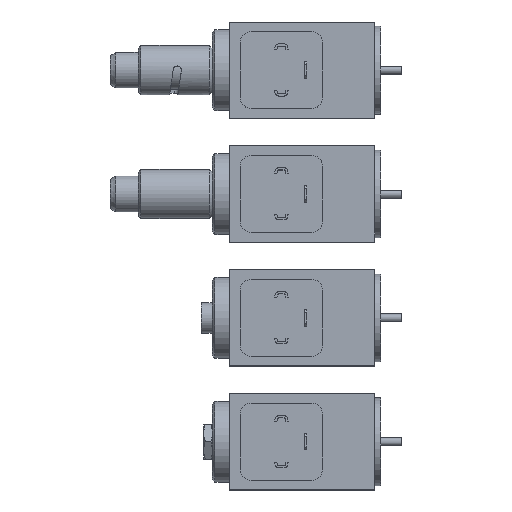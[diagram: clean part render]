
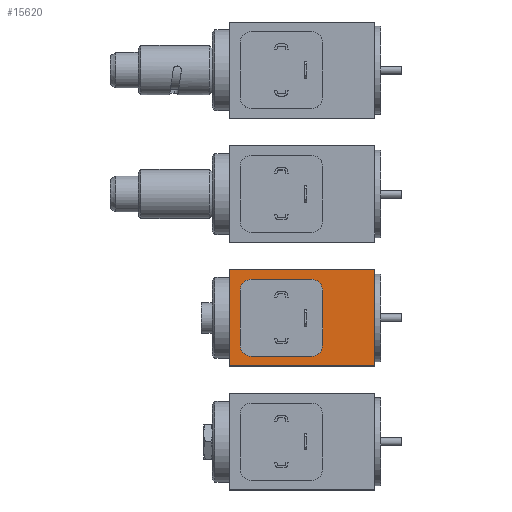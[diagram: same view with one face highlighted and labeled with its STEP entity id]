
A CAD part, top view. The second image highlights one B-rep face of the part: STEP entity #15620.
In plain terms, the highlighted planar face has unit normal (0, 0, 1).
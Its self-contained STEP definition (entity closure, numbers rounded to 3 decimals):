
#15620=ADVANCED_FACE('', (#15630,#15640,#15650,#15660,#15670), #15680, 
.T.);
#49240=AXIS2_PLACEMENT_3D('Ax2Pl3d', #49250, #49260, #49270);
#49320=AXIS2_PLACEMENT_3D('Ax2Pl3d', #49330, #49340, #49350);
#49360=AXIS2_PLACEMENT_3D('Ax2Pl3d', #49370, #49380, #49390);
#49400=AXIS2_PLACEMENT_3D('Ax2Pl3d', #49410, #49420, #49430);
#49440=AXIS2_PLACEMENT_3D('Ax2Pl3d', #49450, #49460, #49470);
#70190=CARTESIAN_POINT('', (53.,45.,110.));
#70200=CARTESIAN_POINT('', (53.,80.,110.));
#70210=CARTESIAN_POINT('', (53.,45.,110.));
#49250=CARTESIAN_POINT('HicPkt', (15.,62.5,110.));
#70310=CARTESIAN_POINT('', (15.,68.5,110.));
#49330=CARTESIAN_POINT('HicPkt', (53.,80.,110.));
#70330=CARTESIAN_POINT('', (0.,80.,110.));
#70340=CARTESIAN_POINT('', (0.,80.,110.));
#70350=CARTESIAN_POINT('', (0.,45.,110.));
#70360=CARTESIAN_POINT('', (0.,45.,110.));
#70370=CARTESIAN_POINT('', (0.,45.,110.));
#49370=CARTESIAN_POINT('HicPkt', (9.75,71.75,110.));
#70380=CARTESIAN_POINT('', (9.75,73.25,110.));
#49410=CARTESIAN_POINT('HicPkt', (25.5,62.5,110.));
#70390=CARTESIAN_POINT('', (25.5,64.,110.));
#49450=CARTESIAN_POINT('HicPkt', (28.25,53.25,110.));
#70400=CARTESIAN_POINT('', (28.25,54.75,110.));
#73790=CIRCLE('Circle', #49240, 6.);
#73810=CIRCLE('Circle', #49360, 1.5);
#73820=CIRCLE('Circle', #49400, 1.5);
#73830=CIRCLE('Circle', #49440, 1.5);
#111530=DIRECTION('', (0.,-1.,0.));
#49260=DIRECTION('Axis', (0.,0.,1.));
#49270=DIRECTION('RefDirection', (1.,0.,0.));
#49340=DIRECTION('Axis', (0.,0.,1.));
#49350=DIRECTION('RefDirection', (1.,0.,0.));
#111570=DIRECTION('', (-1.,0.,0.));
#111580=DIRECTION('', (0.,-1.,0.));
#111590=DIRECTION('', (-1.,0.,0.));
#49380=DIRECTION('Axis', (0.,0.,1.));
#49390=DIRECTION('RefDirection', (1.,0.,0.));
#49420=DIRECTION('Axis', (0.,0.,1.));
#49430=DIRECTION('RefDirection', (1.,0.,0.));
#49460=DIRECTION('Axis', (0.,0.,1.));
#49470=DIRECTION('RefDirection', (1.,0.,0.));
#131690=EDGE_CURVE('', #131700, #131710, #131720, .T.);
#131890=EDGE_CURVE('', #131900, #131900, #73790, .T.);
#131930=EDGE_CURVE('', #131700, #131940, #131950, .T.);
#131960=EDGE_CURVE('', #131940, #131970, #131980, .T.);
#131990=EDGE_CURVE('', #131710, #131970, #132000, .T.);
#132010=EDGE_CURVE('', #132020, #132020, #73810, .T.);
#132030=EDGE_CURVE('', #132040, #132040, #73820, .T.);
#132050=EDGE_CURVE('', #132060, #132060, #73830, .T.);
#156050=EDGE_LOOP('Edge_loop', (#156060,#156070,#156080,#156090));
#156100=EDGE_LOOP('Edge_loop', (#156110));
#156120=EDGE_LOOP('Edge_loop', (#156130));
#156140=EDGE_LOOP('Edge_loop', (#156150));
#156160=EDGE_LOOP('Edge_loop', (#156170));
#15640=FACE_BOUND('', #156100, .T.);
#15650=FACE_BOUND('', #156120, .T.);
#15660=FACE_BOUND('', #156140, .T.);
#15670=FACE_BOUND('', #156160, .T.);
#15630=FACE_OUTER_BOUND('Face_outer_bound', #156050, .T.);
#131720=LINE('Line', #70190, #173160);
#131950=LINE('Line', #70330, #173200);
#131980=LINE('Line', #70350, #173210);
#132000=LINE('Line', #70370, #173220);
#156060=ORIENTED_EDGE('', *, *, #131930, .T.);
#156070=ORIENTED_EDGE('', *, *, #131960, .T.);
#156080=ORIENTED_EDGE('', *, *, #131990, .F.);
#156090=ORIENTED_EDGE('', *, *, #131690, .F.);
#156110=ORIENTED_EDGE('', *, *, #131890, .F.);
#156130=ORIENTED_EDGE('', *, *, #132010, .F.);
#156150=ORIENTED_EDGE('', *, *, #132030, .F.);
#156170=ORIENTED_EDGE('', *, *, #132050, .F.);
#15680=PLANE('Plane', #49320);
#173160=VECTOR('', #111530, 35.);
#173200=VECTOR('', #111570, 53.);
#173210=VECTOR('', #111580, 35.);
#173220=VECTOR('', #111590, 53.);
#131700=VERTEX_POINT('', #70200);
#131710=VERTEX_POINT('', #70210);
#131900=VERTEX_POINT('', #70310);
#131940=VERTEX_POINT('', #70340);
#131970=VERTEX_POINT('', #70360);
#132020=VERTEX_POINT('', #70380);
#132040=VERTEX_POINT('', #70390);
#132060=VERTEX_POINT('', #70400);
